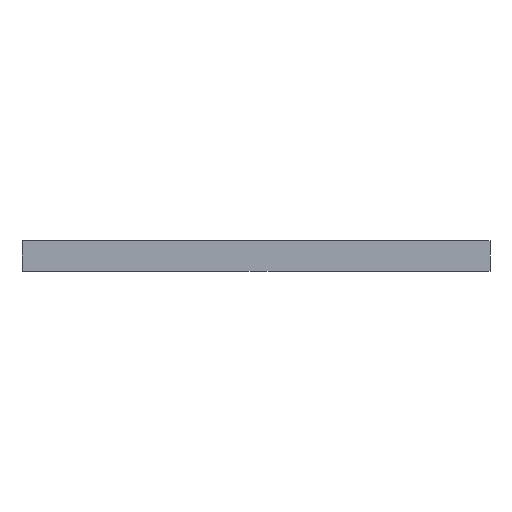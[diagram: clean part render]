
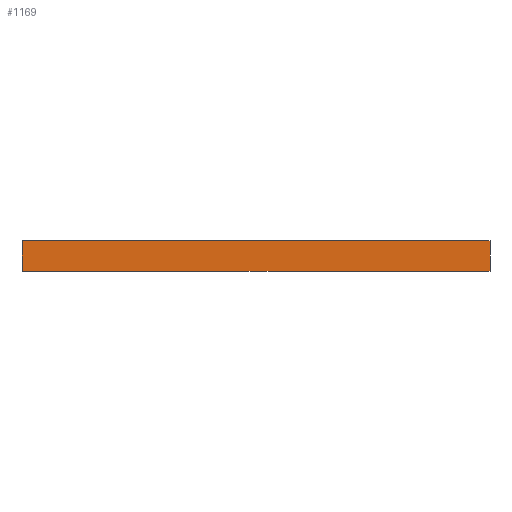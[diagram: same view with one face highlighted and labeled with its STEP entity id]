
A CAD part, front view. The second image highlights one B-rep face of the part: STEP entity #1169.
In plain terms, the highlighted planar face has unit normal (0, -1, 0).
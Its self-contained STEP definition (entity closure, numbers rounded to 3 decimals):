
#3 = CARTESIAN_POINT ( 'NONE',  ( -23., -30.2, 3. ) ) ;
#117 = DIRECTION ( 'NONE',  ( -1., 0., 0. ) ) ;
#210 = VERTEX_POINT ( 'NONE', #9526 ) ;
#977 = CARTESIAN_POINT ( 'NONE',  ( -23., -30.2, 3. ) ) ;
#1169 = ADVANCED_FACE ( 'NONE', ( #5387 ), #6050, .T. ) ;
#1682 = DIRECTION ( 'NONE',  ( 0., -1., 0. ) ) ;
#3043 = CARTESIAN_POINT ( 'NONE',  ( 23., -30.2, -75.604 ) ) ;
#3311 = EDGE_CURVE ( 'NONE', #210, #12976, #11985, .T. ) ;
#3429 = VECTOR ( 'NONE', #117, 1000. ) ;
#4984 = DIRECTION ( 'NONE',  ( 0., 0., -1. ) ) ;
#5078 = VECTOR ( 'NONE', #11454, 1000. ) ;
#5387 = FACE_OUTER_BOUND ( 'NONE', #9101, .T. ) ;
#5797 = EDGE_CURVE ( 'NONE', #12795, #210, #13683, .T. ) ;
#6050 = PLANE ( 'NONE',  #10147 ) ;
#6398 = CARTESIAN_POINT ( 'NONE',  ( -23., -30.2, 0. ) ) ;
#6478 = ORIENTED_EDGE ( 'NONE', *, *, #7030, .F. ) ;
#7030 = EDGE_CURVE ( 'NONE', #12976, #12119, #7868, .T. ) ;
#7737 = LINE ( 'NONE', #3043, #10081 ) ;
#7868 = LINE ( 'NONE', #977, #5078 ) ;
#8051 = DIRECTION ( 'NONE',  ( 0., 0., 1. ) ) ;
#8818 = VECTOR ( 'NONE', #8051, 1000. ) ;
#9101 = EDGE_LOOP ( 'NONE', ( #13036, #12900, #6478, #9362 ) ) ;
#9362 = ORIENTED_EDGE ( 'NONE', *, *, #3311, .F. ) ;
#9526 = CARTESIAN_POINT ( 'NONE',  ( -23., -30.2, 0. ) ) ;
#9774 = EDGE_CURVE ( 'NONE', #12795, #12119, #7737, .T. ) ;
#10081 = VECTOR ( 'NONE', #12607, 1000. ) ;
#10147 = AXIS2_PLACEMENT_3D ( 'NONE', #11318, #1682, #4984 ) ;
#10345 = CARTESIAN_POINT ( 'NONE',  ( 23., -30.2, 0. ) ) ;
#10886 = CARTESIAN_POINT ( 'NONE',  ( 23., -30.2, 3. ) ) ;
#11318 = CARTESIAN_POINT ( 'NONE',  ( -23., -30.2, -75.604 ) ) ;
#11454 = DIRECTION ( 'NONE',  ( 1., 0., 0. ) ) ;
#11985 = LINE ( 'NONE', #12249, #8818 ) ;
#12119 = VERTEX_POINT ( 'NONE', #10886 ) ;
#12249 = CARTESIAN_POINT ( 'NONE',  ( -23., -30.2, -75.604 ) ) ;
#12607 = DIRECTION ( 'NONE',  ( 0., 0., 1. ) ) ;
#12795 = VERTEX_POINT ( 'NONE', #10345 ) ;
#12900 = ORIENTED_EDGE ( 'NONE', *, *, #9774, .T. ) ;
#12976 = VERTEX_POINT ( 'NONE', #3 ) ;
#13036 = ORIENTED_EDGE ( 'NONE', *, *, #5797, .F. ) ;
#13683 = LINE ( 'NONE', #6398, #3429 ) ;
